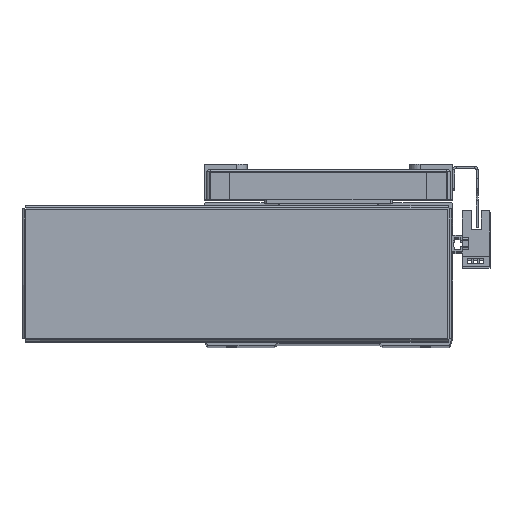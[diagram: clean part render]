
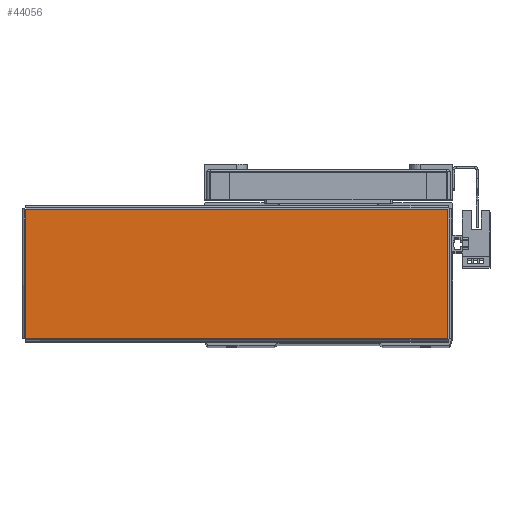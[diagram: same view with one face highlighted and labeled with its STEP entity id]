
A CAD part, top view. The second image highlights one B-rep face of the part: STEP entity #44056.
In plain terms, the highlighted planar face has unit normal (0, 0, 1) as drawn and (0, -1, 0) by its records, which use the part's own axes.
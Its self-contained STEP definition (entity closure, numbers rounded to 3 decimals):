
#19991 = FACE_OUTER_BOUND ( 'NONE', #56410, .T. ) ;
#24143 = PLANE ( 'NONE',  #24816 ) ;
#24155 = DIRECTION ( 'NONE',  ( 0., 1., 0. ) ) ;
#24185 = DIRECTION ( 'NONE',  ( 0., 0., 1. ) ) ;
#24186 = CARTESIAN_POINT ( 'NONE',  ( 0., -1., 0. ) ) ;
#24816 = AXIS2_PLACEMENT_3D ( 'NONE', #24186, #24155, #24185 ) ;
#28472 = VERTEX_POINT ( 'NONE', #44318 ) ;
#28593 = VERTEX_POINT ( 'NONE', #44367 ) ;
#28595 = VERTEX_POINT ( 'NONE', #44417 ) ;
#28597 = VERTEX_POINT ( 'NONE', #44369 ) ;
#30670 = ORIENTED_EDGE ( 'NONE', *, *, #55999, .T. ) ;
#30676 = ORIENTED_EDGE ( 'NONE', *, *, #55997, .T. ) ;
#30679 = ORIENTED_EDGE ( 'NONE', *, *, #55907, .T. ) ;
#30695 = ORIENTED_EDGE ( 'NONE', *, *, #55978, .T. ) ;
#39316 = DIRECTION ( 'NONE',  ( 0., 0., -1. ) ) ;
#39326 = CARTESIAN_POINT ( 'NONE',  ( -103.763, -1., 31.793 ) ) ;
#39350 = CARTESIAN_POINT ( 'NONE',  ( -103.793, -1., -31.763 ) ) ;
#39356 = DIRECTION ( 'NONE',  ( 1., 0., 0. ) ) ;
#39359 = CARTESIAN_POINT ( 'NONE',  ( 103.763, -1., -31.793 ) ) ;
#39361 = DIRECTION ( 'NONE',  ( 0., 0., 1. ) ) ;
#44056 = ADVANCED_FACE ( 'NONE', ( #19991 ), #24143, .F. ) ;
#44318 = CARTESIAN_POINT ( 'NONE',  ( -103.763, -1., 31.763 ) ) ;
#44367 = CARTESIAN_POINT ( 'NONE',  ( 103.763, -1., -31.763 ) ) ;
#44369 = CARTESIAN_POINT ( 'NONE',  ( 103.763, -1., 31.763 ) ) ;
#44417 = CARTESIAN_POINT ( 'NONE',  ( -103.763, -1., -31.763 ) ) ;
#46666 = CARTESIAN_POINT ( 'NONE',  ( 103.793, -1., 31.763 ) ) ;
#46682 = DIRECTION ( 'NONE',  ( -1., 0., 0. ) ) ;
#49726 = LINE ( 'NONE', #46666, #49727 ) ;
#49727 = VECTOR ( 'NONE', #46682, 1000. ) ;
#49785 = LINE ( 'NONE', #39326, #49839 ) ;
#49839 = VECTOR ( 'NONE', #39316, 1000. ) ;
#49843 = VECTOR ( 'NONE', #39356, 1000. ) ;
#49850 = VECTOR ( 'NONE', #39361, 1000. ) ;
#49852 = LINE ( 'NONE', #39350, #49843 ) ;
#49900 = LINE ( 'NONE', #39359, #49850 ) ;
#55907 = EDGE_CURVE ( 'NONE', #28597, #28472, #49726, .T. ) ;
#55978 = EDGE_CURVE ( 'NONE', #28472, #28595, #49785, .T. ) ;
#55997 = EDGE_CURVE ( 'NONE', #28595, #28593, #49852, .T. ) ;
#55999 = EDGE_CURVE ( 'NONE', #28593, #28597, #49900, .T. ) ;
#56410 = EDGE_LOOP ( 'NONE', ( #30679, #30695, #30676, #30670 ) ) ;
